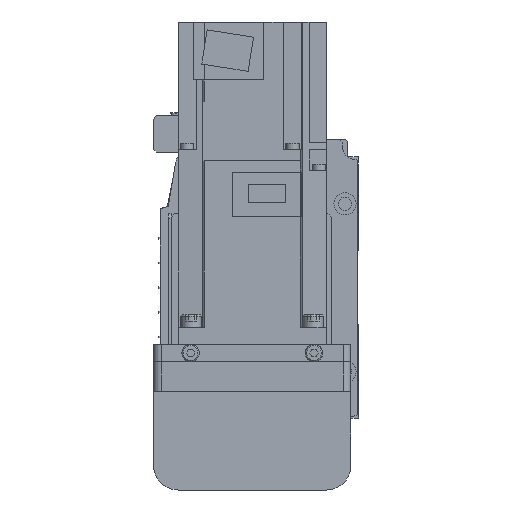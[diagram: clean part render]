
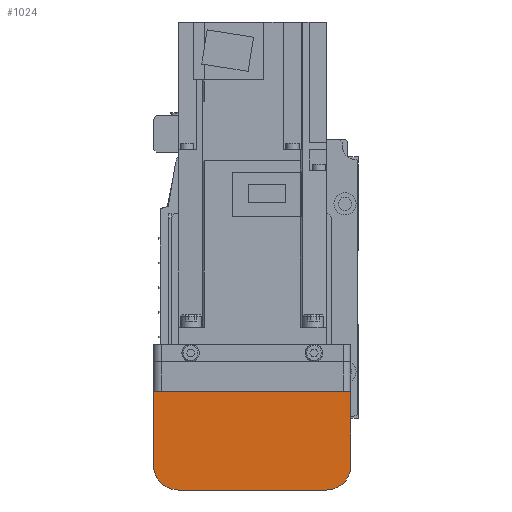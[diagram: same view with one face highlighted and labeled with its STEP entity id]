
A CAD part, left-side view. The second image highlights one B-rep face of the part: STEP entity #1024.
In plain terms, the highlighted planar face has unit normal (-1, 0, 0).
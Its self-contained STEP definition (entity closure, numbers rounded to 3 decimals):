
#1024 = ADVANCED_FACE( '', ( #2633 ), #2634, .F. );
#2633 = FACE_OUTER_BOUND( '', #5049, .T. );
#2634 = PLANE( '', #5050 );
#5049 = EDGE_LOOP( '', ( #7740, #7741, #7742, #7743, #7744, #7745 ) );
#5050 = AXIS2_PLACEMENT_3D( '', #7746, #7747, #7748 );
#7740 = ORIENTED_EDGE( '', *, *, #13968, .F. );
#7741 = ORIENTED_EDGE( '', *, *, #13969, .F. );
#7742 = ORIENTED_EDGE( '', *, *, #13970, .F. );
#7743 = ORIENTED_EDGE( '', *, *, #13971, .F. );
#7744 = ORIENTED_EDGE( '', *, *, #13972, .F. );
#7745 = ORIENTED_EDGE( '', *, *, #13973, .F. );
#7746 = CARTESIAN_POINT( '', ( -192., 37., 7. ) );
#7747 = DIRECTION( '', ( 1., 0., 0. ) );
#7748 = DIRECTION( '', ( 0., 0., -1. ) );
#13968 = EDGE_CURVE( '', #16683, #16684, #16685, .T. );
#13969 = EDGE_CURVE( '', #16686, #16683, #16687, .T. );
#13970 = EDGE_CURVE( '', #16688, #16686, #16689, .T. );
#13971 = EDGE_CURVE( '', #16690, #16688, #16691, .T. );
#13972 = EDGE_CURVE( '', #16692, #16690, #16693, .T. );
#13973 = EDGE_CURVE( '', #16684, #16692, #16694, .T. );
#16683 = VERTEX_POINT( '', #20518 );
#16684 = VERTEX_POINT( '', #20519 );
#16685 = LINE( '', #20520, #20521 );
#16686 = VERTEX_POINT( '', #20522 );
#16687 = LINE( '', #20523, #20524 );
#16688 = VERTEX_POINT( '', #20525 );
#16689 = CIRCLE( '', #20526, 10. );
#16690 = VERTEX_POINT( '', #20527 );
#16691 = LINE( '', #20528, #20529 );
#16692 = VERTEX_POINT( '', #20530 );
#16693 = CIRCLE( '', #20531, 10. );
#16694 = LINE( '', #20532, #20533 );
#20518 = CARTESIAN_POINT( '', ( -192., 40., -12.1 ) );
#20519 = CARTESIAN_POINT( '', ( -192., -40., -12.1 ) );
#20520 = CARTESIAN_POINT( '', ( -192., 50., -12.1 ) );
#20521 = VECTOR( '', #25157, 1000. );
#20522 = CARTESIAN_POINT( '', ( -192., 40., -42. ) );
#20523 = CARTESIAN_POINT( '', ( -192., 40., -42. ) );
#20524 = VECTOR( '', #25158, 1000. );
#20525 = CARTESIAN_POINT( '', ( -192., 30., -52. ) );
#20526 = AXIS2_PLACEMENT_3D( '', #25159, #25160, #25161 );
#20527 = CARTESIAN_POINT( '', ( -192., -30., -52. ) );
#20528 = CARTESIAN_POINT( '', ( -192., -30., -52. ) );
#20529 = VECTOR( '', #25162, 1000. );
#20530 = CARTESIAN_POINT( '', ( -192., -40., -42. ) );
#20531 = AXIS2_PLACEMENT_3D( '', #25163, #25164, #25165 );
#20532 = CARTESIAN_POINT( '', ( -192., -40., -12.1 ) );
#20533 = VECTOR( '', #25166, 1000. );
#25157 = DIRECTION( '', ( 0., -1., 0. ) );
#25158 = DIRECTION( '', ( 0., 0., 1. ) );
#25159 = CARTESIAN_POINT( '', ( -192., 30., -42. ) );
#25160 = DIRECTION( '', ( 1., 0., 0. ) );
#25161 = DIRECTION( '', ( 0., 0., -1. ) );
#25162 = DIRECTION( '', ( 0., 1., 0. ) );
#25163 = CARTESIAN_POINT( '', ( -192., -30., -42. ) );
#25164 = DIRECTION( '', ( 1., 0., 0. ) );
#25165 = DIRECTION( '', ( 0., 0., -1. ) );
#25166 = DIRECTION( '', ( 0., 0., -1. ) );
